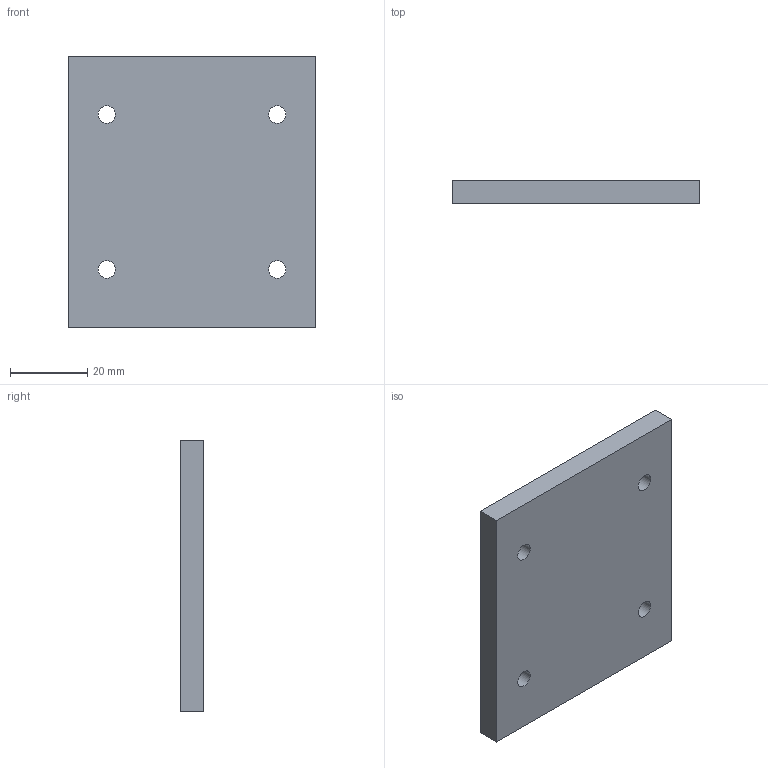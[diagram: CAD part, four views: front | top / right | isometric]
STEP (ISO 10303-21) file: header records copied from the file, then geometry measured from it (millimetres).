
FILE_DESCRIPTION(('Open CASCADE Model'),'2;1');
FILE_NAME('Open CASCADE Shape Model','2026-10-26T17:58:52',('Author'),( 'Open CASCADE'),'Open CASCADE STEP processor 7.9','Open CASCADE 7.9' ,'Unknown');
FILE_SCHEMA(('AUTOMOTIVE_DESIGN { 1 0 10303 214 1 1 1 1 }'));
Length unit declared in the file: millimetre
Products named in the file (1): Open CASCADE STEP translator 7.9 8
Bounding box: 64 x 6 x 70 mm (x, y, z)
Volume: 26498.3 mm3; surface area: 10780.1 mm2
Topology: 1 solids, 1 shells, 10 faces, 24 edges, 16 vertices
Faces by surface type: plane 6, cylinder 4
Full cylindrical faces by diameter (mm): 4.5 x4
Entity records: 634 total; most frequent: DIRECTION 102, CARTESIAN_POINT 99, LINE 56, VECTOR 56, ORIENTED_EDGE 48, PCURVE 48, DEFINITIONAL_REPRESENTATION 48, EDGE_CURVE 24
